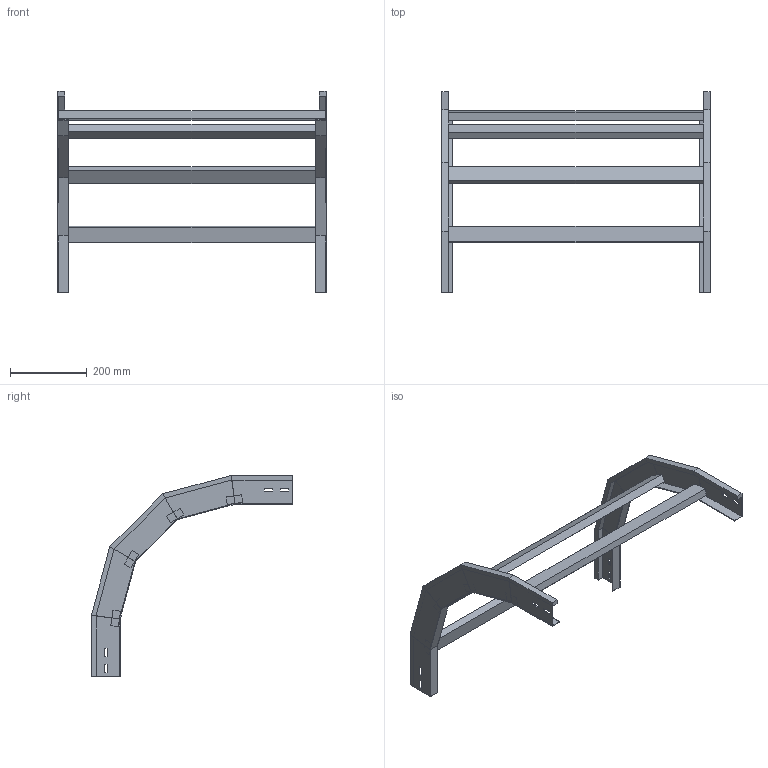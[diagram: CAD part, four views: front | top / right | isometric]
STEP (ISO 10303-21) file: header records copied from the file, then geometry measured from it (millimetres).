
FILE_DESCRIPTION (( 'STEP AP214' ), '1' );
FILE_NAME ('A2_33B3C700.step', '2025-02-21T15:05:42', ( '' ), ( '' ), 'SwSTEP 2.0', 'SolidWorks 2023', '' );
FILE_SCHEMA (( 'AUTOMOTIVE_DESIGN' ));
Length unit declared in the file: millimetre
Products named in the file (3): TRAVERSINO_700; LONGH.DISCESA_90°_H75_R300; A2_33B3C700
Assembly tree (6 placements, depth 2):
  A2_33B3C700
    LONGH.DISCESA_90°_H75_R300  x2
    TRAVERSINO_700  x4
Bounding box: 700 x 524.44 x 524.44 mm (x, y, z)
Volume: 2912829.3 mm3; surface area: 730136 mm2
Topology: 6 solids, 6 shells, 140 faces, 320 edges, 192 vertices
Faces by surface type: plane 140
Entity records: 1872 total; most frequent: CARTESIAN_POINT 309, ORIENTED_EDGE 296, DIRECTION 294, EDGE_CURVE 148, VECTOR 148, LINE 148, VERTEX_POINT 88, AXIS2_PLACEMENT_3D 73
